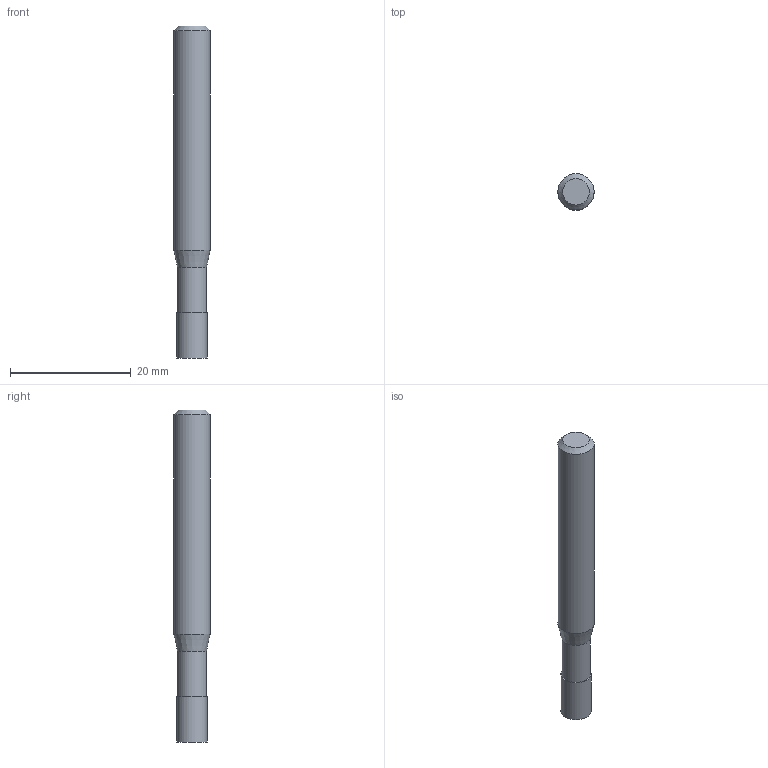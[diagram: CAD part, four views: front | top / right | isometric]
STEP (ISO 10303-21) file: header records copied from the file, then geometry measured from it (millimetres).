
FILE_DESCRIPTION((''),'2;1');
FILE_NAME('C:\Users\nsx150\AppData\Local\Temp\Mastercam 2021\EUJSUNXURU\TEMP.step','2021-04-22T10:35:32',(''),(''),'STEP Write','Mastercam 2021 ... CNC Software, Inc.','');
FILE_SCHEMA(('AUTOMOTIVE_DESIGN'));
Length unit declared in the file: millimetre
Products named in the file (1): None
Bounding box: 6 x 6 x 55 mm (x, y, z)
Volume: 1393.6 mm3; surface area: 1056.6 mm2
Topology: 2 solids, 2 shells, 9 faces, 12 edges, 7 vertices
Faces by surface type: plane 4, cylinder 3, cone 2
Full cylindrical faces by diameter (mm): 4.8 x1, 5 x1, 6 x1
Entity records: 211 total; most frequent: DIRECTION 36, CARTESIAN_POINT 25, AXIS2_PLACEMENT_3D 18, ORIENTED_EDGE 14, EDGE_LOOP 14, STYLED_ITEM 12, ADVANCED_FACE 9, FACE_BOUND 8
